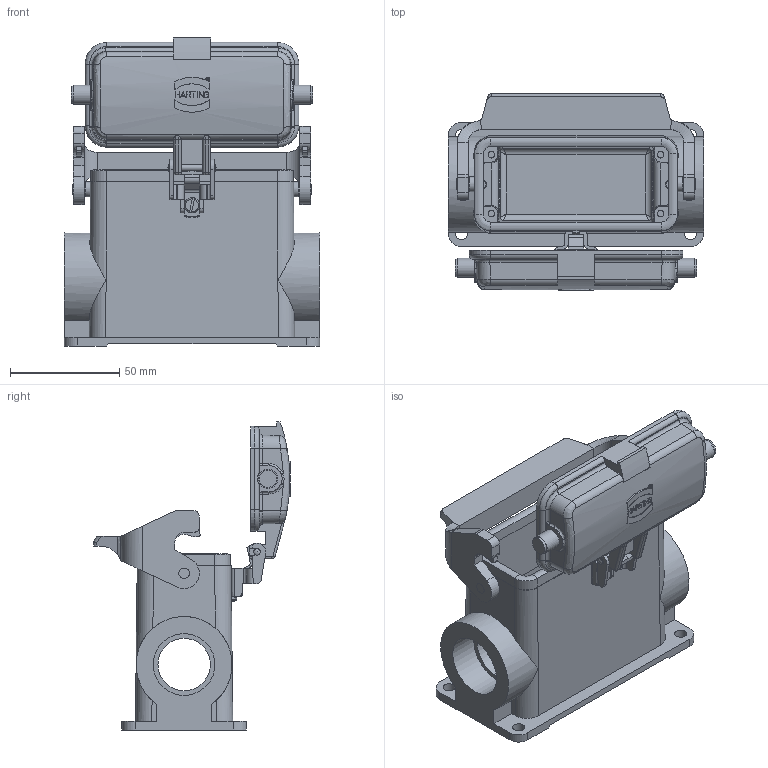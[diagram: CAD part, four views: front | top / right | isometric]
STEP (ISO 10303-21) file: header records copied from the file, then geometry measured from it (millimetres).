
FILE_DESCRIPTION(/* description */ (''),/* implementation_level */ '2;1');
FILE_NAME(/* name */ '100765056ugm000_a.stp',/* time_stamp */ '2022-03-12T06:53:21+01:00',/* author */ (''),/* organization */ (''),/* preprocessor_version */ 'ST-DEVELOPER v16.7',/* originating_system */ 'SIEMENS PLM Software NX 1911',/* authorisation */ '');
FILE_SCHEMA (('AUTOMOTIVE_DESIGN { 1 0 10303 214 3 1 1 1 }'));
Length unit declared in the file: millimetre
Products named in the file (1): 100765056ugm000_a
Bounding box: 117 x 90.23 x 141.13 mm (x, y, z)
Volume: 187537.3 mm3; surface area: 85284.7 mm2
Topology: 3 solids, 3 shells, 677 faces, 1799 edges, 1158 vertices
Faces by surface type: plane 362, cylinder 216, bspline 76, cone 15, torus 6, sphere 2
Full cylindrical faces by diameter (mm): 1.52 x1, 1.68 x1, 3 x5, 4 x2, 4.8 x2, 5.6 x4, 7 x3, 8 x2, 8.8 x2, 10 x4, 24 x2, 28.3 x2
Entity records: 27345 total; most frequent: CARTESIAN_POINT 6984, ORIENTED_EDGE 3472, DIRECTION 3273, EDGE_CURVE 1736, VERTEX_POINT 1135, AXIS2_PLACEMENT_3D 1123, LINE 1027, VECTOR 1027
